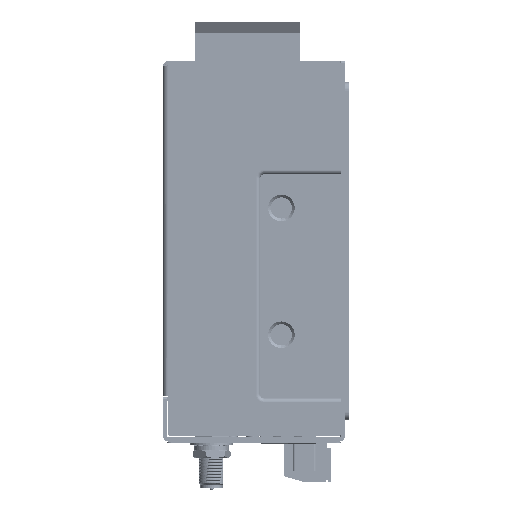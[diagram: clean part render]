
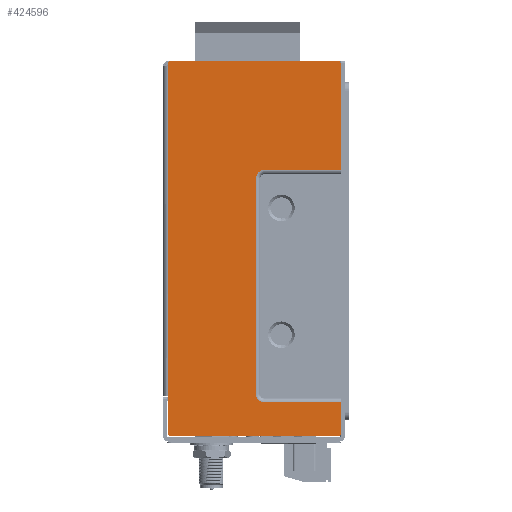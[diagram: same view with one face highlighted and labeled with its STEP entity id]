
A CAD part, left-side view. The second image highlights one B-rep face of the part: STEP entity #424596.
In plain terms, the highlighted planar face has unit normal (-1, 0, 0).
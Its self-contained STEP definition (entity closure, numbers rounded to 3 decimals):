
#6501 = LINE ( 'NONE', #350130, #269228 ) ;
#9893 = EDGE_CURVE ( 'NONE', #24919, #463622, #207761, .T. ) ;
#11555 = ORIENTED_EDGE ( 'NONE', *, *, #344987, .T. ) ;
#14440 = CARTESIAN_POINT ( 'NONE',  ( 0., 23., -53.35 ) ) ;
#15947 = DIRECTION ( 'NONE',  ( 1., 0., 0. ) ) ;
#16624 = EDGE_CURVE ( 'NONE', #485185, #303982, #146824, .T. ) ;
#18993 = CARTESIAN_POINT ( 'NONE',  ( 0., 41., 0. ) ) ;
#20456 = VERTEX_POINT ( 'NONE', #303722 ) ;
#24919 = VERTEX_POINT ( 'NONE', #291823 ) ;
#35141 = LINE ( 'NONE', #205690, #267485 ) ;
#41649 = CIRCLE ( 'NONE', #250178, 2. ) ;
#45348 = ORIENTED_EDGE ( 'NONE', *, *, #143157, .T. ) ;
#51486 = ORIENTED_EDGE ( 'NONE', *, *, #150898, .T. ) ;
#59016 = EDGE_CURVE ( 'NONE', #297639, #430595, #442535, .T. ) ;
#69808 = ORIENTED_EDGE ( 'NONE', *, *, #114775, .F. ) ;
#88531 = ORIENTED_EDGE ( 'NONE', *, *, #409796, .T. ) ;
#89604 = VERTEX_POINT ( 'NONE', #482577 ) ;
#90089 = DIRECTION ( 'NONE',  ( 0., 0., -1. ) ) ;
#97495 = VERTEX_POINT ( 'NONE', #292644 ) ;
#101384 = CARTESIAN_POINT ( 'NONE',  ( 0., 0.25, -79.1 ) ) ;
#101739 = DIRECTION ( 'NONE',  ( 1., 0., 0. ) ) ;
#104212 = DIRECTION ( 'NONE',  ( 0., -1., 0. ) ) ;
#105739 = VERTEX_POINT ( 'NONE', #380256 ) ;
#110443 = EDGE_CURVE ( 'NONE', #215557, #556199, #41649, .T. ) ;
#112576 = DIRECTION ( 'NONE',  ( 0., 1., 0. ) ) ;
#114775 = EDGE_CURVE ( 'NONE', #89604, #430595, #131863, .T. ) ;
#115892 = CARTESIAN_POINT ( 'NONE',  ( 0., 40.5, 9.65 ) ) ;
#122202 = DIRECTION ( 'NONE',  ( 0., -1., 0. ) ) ;
#128758 = DIRECTION ( 'NONE',  ( 0., 1., 0. ) ) ;
#131863 = LINE ( 'NONE', #475355, #207576 ) ;
#138076 = ORIENTED_EDGE ( 'NONE', *, *, #59016, .T. ) ;
#139254 = CARTESIAN_POINT ( 'NONE',  ( 0., 21., 0. ) ) ;
#139409 = VECTOR ( 'NONE', #90089, 1000. ) ;
#143157 = EDGE_CURVE ( 'NONE', #355997, #297639, #388561, .T. ) ;
#146824 = LINE ( 'NONE', #320073, #139409 ) ;
#146966 = LINE ( 'NONE', #271983, #201024 ) ;
#150898 = EDGE_CURVE ( 'NONE', #469524, #20456, #484703, .T. ) ;
#153999 = CIRCLE ( 'NONE', #299101, 0.5 ) ;
#158087 = LINE ( 'NONE', #101384, #348162 ) ;
#164286 = EDGE_CURVE ( 'NONE', #97495, #105739, #253690, .T. ) ;
#177483 = VECTOR ( 'NONE', #122202, 1000. ) ;
#178095 = CARTESIAN_POINT ( 'NONE',  ( 0., 41., 9.15 ) ) ;
#186325 = DIRECTION ( 'NONE',  ( 0., 1., 0. ) ) ;
#192122 = AXIS2_PLACEMENT_3D ( 'NONE', #457131, #414540, #369260 ) ;
#194941 = DIRECTION ( 'NONE',  ( 0., 1., 0. ) ) ;
#201024 = VECTOR ( 'NONE', #362788, 1000. ) ;
#201062 = CIRCLE ( 'NONE', #192122, 0.5 ) ;
#204056 = VECTOR ( 'NONE', #399947, 1000. ) ;
#205690 = CARTESIAN_POINT ( 'NONE',  ( 0., 23., 1.65 ) ) ;
#207576 = VECTOR ( 'NONE', #302277, 1000. ) ;
#207761 = CIRCLE ( 'NONE', #515529, 2. ) ;
#215557 = VERTEX_POINT ( 'NONE', #434967 ) ;
#217250 = VERTEX_POINT ( 'NONE', #345813 ) ;
#218943 = DIRECTION ( 'NONE',  ( 0., 0., -1. ) ) ;
#229018 = CARTESIAN_POINT ( 'NONE',  ( 0., 0.75, -79.1 ) ) ;
#231792 = PLANE ( 'NONE',  #446817 ) ;
#238695 = EDGE_CURVE ( 'NONE', #303982, #215557, #35141, .T. ) ;
#242694 = DIRECTION ( 'NONE',  ( 0., -1., 0. ) ) ;
#246673 = ORIENTED_EDGE ( 'NONE', *, *, #238695, .T. ) ;
#250178 = AXIS2_PLACEMENT_3D ( 'NONE', #453160, #15947, #194941 ) ;
#253690 = CIRCLE ( 'NONE', #262899, 0.5 ) ;
#262899 = AXIS2_PLACEMENT_3D ( 'NONE', #501454, #294204, #112576 ) ;
#264740 = EDGE_CURVE ( 'NONE', #463622, #469524, #6501, .T. ) ;
#267485 = VECTOR ( 'NONE', #242694, 1000. ) ;
#268206 = CARTESIAN_POINT ( 'NONE',  ( 0., 21., -0.35 ) ) ;
#269228 = VECTOR ( 'NONE', #302030, 1000. ) ;
#269436 = DIRECTION ( 'NONE',  ( 0., 1., 0. ) ) ;
#271983 = CARTESIAN_POINT ( 'NONE',  ( 0., 0.25, 9.65 ) ) ;
#274322 = FACE_OUTER_BOUND ( 'NONE', #538692, .T. ) ;
#291823 = CARTESIAN_POINT ( 'NONE',  ( 0., 21., -51.35 ) ) ;
#292644 = CARTESIAN_POINT ( 'NONE',  ( 0., 0.25, 9.15 ) ) ;
#292793 = VECTOR ( 'NONE', #402373, 1000. ) ;
#294204 = DIRECTION ( 'NONE',  ( -1., 0., 0. ) ) ;
#297639 = VERTEX_POINT ( 'NONE', #334093 ) ;
#299101 = AXIS2_PLACEMENT_3D ( 'NONE', #376912, #368517, #541606 ) ;
#302030 = DIRECTION ( 'NONE',  ( 0., 1., 0. ) ) ;
#302277 = DIRECTION ( 'NONE',  ( 0., 0., -1. ) ) ;
#303722 = CARTESIAN_POINT ( 'NONE',  ( 0., 41., -78.6 ) ) ;
#303982 = VERTEX_POINT ( 'NONE', #447680 ) ;
#306307 = CARTESIAN_POINT ( 'NONE',  ( 0., 41., -53.35 ) ) ;
#309136 = ORIENTED_EDGE ( 'NONE', *, *, #541814, .T. ) ;
#309289 = CARTESIAN_POINT ( 'NONE',  ( 0., 23., -51.35 ) ) ;
#318808 = ORIENTED_EDGE ( 'NONE', *, *, #164286, .T. ) ;
#320073 = CARTESIAN_POINT ( 'NONE',  ( 0., 41., 0. ) ) ;
#331314 = ORIENTED_EDGE ( 'NONE', *, *, #470816, .T. ) ;
#334093 = CARTESIAN_POINT ( 'NONE',  ( 0., 0.25, -78.6 ) ) ;
#338938 = DIRECTION ( 'NONE',  ( -1., 0., 0. ) ) ;
#340727 = LINE ( 'NONE', #380591, #177483 ) ;
#344987 = EDGE_CURVE ( 'NONE', #217250, #355997, #158087, .T. ) ;
#345813 = CARTESIAN_POINT ( 'NONE',  ( 0., 40.5, -79.1 ) ) ;
#348162 = VECTOR ( 'NONE', #104212, 1000. ) ;
#349007 = CARTESIAN_POINT ( 'NONE',  ( 0., 0.25, -119.862 ) ) ;
#350130 = CARTESIAN_POINT ( 'NONE',  ( 0., 0., -53.35 ) ) ;
#355997 = VERTEX_POINT ( 'NONE', #229018 ) ;
#362788 = DIRECTION ( 'NONE',  ( 0., 0., -1. ) ) ;
#368517 = DIRECTION ( 'NONE',  ( -1., 0., 0. ) ) ;
#369260 = DIRECTION ( 'NONE',  ( 0., 1., 0. ) ) ;
#370833 = AXIS2_PLACEMENT_3D ( 'NONE', #514804, #338938, #128758 ) ;
#376912 = CARTESIAN_POINT ( 'NONE',  ( 0., 40.5, 9.15 ) ) ;
#380256 = CARTESIAN_POINT ( 'NONE',  ( 0., 0.75, 9.65 ) ) ;
#380591 = CARTESIAN_POINT ( 'NONE',  ( 0., 41., 9.65 ) ) ;
#388561 = CIRCLE ( 'NONE', #370833, 0.5 ) ;
#399947 = DIRECTION ( 'NONE',  ( 0., 0., 1. ) ) ;
#402373 = DIRECTION ( 'NONE',  ( 0., 0., -1. ) ) ;
#404796 = CARTESIAN_POINT ( 'NONE',  ( 0., 0., 0. ) ) ;
#408998 = CARTESIAN_POINT ( 'NONE',  ( 0., 0.25, -77.923 ) ) ;
#409796 = EDGE_CURVE ( 'NONE', #556199, #24919, #479964, .T. ) ;
#414540 = DIRECTION ( 'NONE',  ( -1., 0., 0. ) ) ;
#422274 = EDGE_CURVE ( 'NONE', #97495, #89604, #146966, .T. ) ;
#424596 = ADVANCED_FACE ( 'NONE', ( #274322 ), #231792, .F. ) ;
#427359 = ORIENTED_EDGE ( 'NONE', *, *, #110443, .T. ) ;
#430595 = VERTEX_POINT ( 'NONE', #408998 ) ;
#434967 = CARTESIAN_POINT ( 'NONE',  ( 0., 23., 1.65 ) ) ;
#435561 = VECTOR ( 'NONE', #218943, 1000. ) ;
#437712 = ORIENTED_EDGE ( 'NONE', *, *, #422274, .F. ) ;
#442535 = LINE ( 'NONE', #349007, #204056 ) ;
#446817 = AXIS2_PLACEMENT_3D ( 'NONE', #404796, #484343, #186325 ) ;
#447680 = CARTESIAN_POINT ( 'NONE',  ( 0., 41., 1.65 ) ) ;
#453160 = CARTESIAN_POINT ( 'NONE',  ( 0., 23., -0.35 ) ) ;
#457131 = CARTESIAN_POINT ( 'NONE',  ( 0., 40.5, -78.6 ) ) ;
#463622 = VERTEX_POINT ( 'NONE', #14440 ) ;
#465657 = EDGE_CURVE ( 'NONE', #474402, #105739, #340727, .T. ) ;
#469524 = VERTEX_POINT ( 'NONE', #306307 ) ;
#470816 = EDGE_CURVE ( 'NONE', #20456, #217250, #201062, .T. ) ;
#474402 = VERTEX_POINT ( 'NONE', #115892 ) ;
#475355 = CARTESIAN_POINT ( 'NONE',  ( 0., 0.25, -79.1 ) ) ;
#479964 = LINE ( 'NONE', #139254, #435561 ) ;
#482577 = CARTESIAN_POINT ( 'NONE',  ( 0., 0.25, 0.15 ) ) ;
#484343 = DIRECTION ( 'NONE',  ( 1., 0., 0. ) ) ;
#484703 = LINE ( 'NONE', #18993, #292793 ) ;
#485185 = VERTEX_POINT ( 'NONE', #178095 ) ;
#492350 = ORIENTED_EDGE ( 'NONE', *, *, #9893, .T. ) ;
#497438 = ORIENTED_EDGE ( 'NONE', *, *, #16624, .T. ) ;
#501454 = CARTESIAN_POINT ( 'NONE',  ( 0., 0.75, 9.15 ) ) ;
#514804 = CARTESIAN_POINT ( 'NONE',  ( 0., 0.75, -78.6 ) ) ;
#515529 = AXIS2_PLACEMENT_3D ( 'NONE', #309289, #101739, #269436 ) ;
#533199 = ORIENTED_EDGE ( 'NONE', *, *, #264740, .T. ) ;
#538692 = EDGE_LOOP ( 'NONE', ( #11555, #45348, #138076, #69808, #437712, #318808, #544157, #309136, #497438, #246673, #427359, #88531, #492350, #533199, #51486, #331314 ) ) ;
#541606 = DIRECTION ( 'NONE',  ( 0., 1., 0. ) ) ;
#541814 = EDGE_CURVE ( 'NONE', #474402, #485185, #153999, .T. ) ;
#544157 = ORIENTED_EDGE ( 'NONE', *, *, #465657, .F. ) ;
#556199 = VERTEX_POINT ( 'NONE', #268206 ) ;
